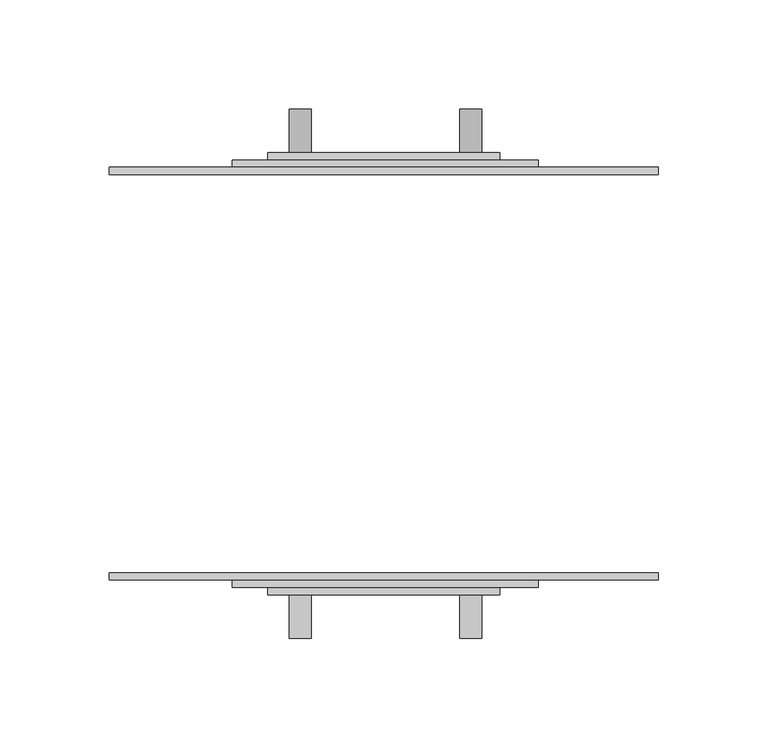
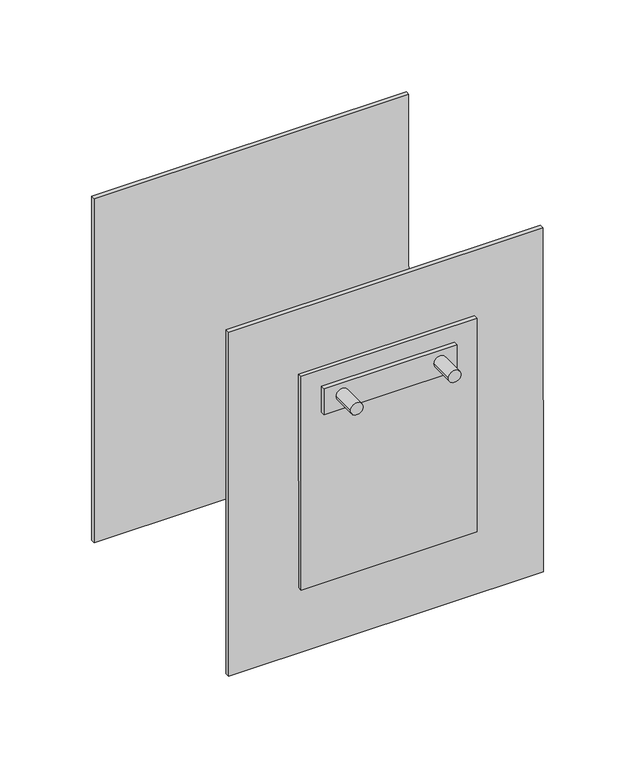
"""IFC4 building model written with IfcOpenShell, lengths in millimetres: proxy geometry, Distribution_Socket_Single_rotated : Distribution_Socket_Single_rotated."""

from ifc_helpers import new_model, si_unit, point, frame, frame_2d, origin, place, context, project, spatial, polyline, circle_curve, trimmed, segment, composite_curve, outline, extrude, source, transform, mapped, element, save


def electrical_equipment_bb2c5f74(model_context):
    return source(origin(), model_context, "Body", "SweptSolid", [
        extrude(outline(composite_curve([segment(trimmed(circle_curve(frame_2d((65.9108106, -38.3495044)), 5.0), [point((65.9071337, -43.349503))], [point((65.9144874, -33.3495057))], False, "CARTESIAN"), True, "CONTINUOUS"), segment(trimmed(circle_curve(frame_2d((65.9108106, -38.3495044)), 5.0), [point((65.9144874, -33.3495057))], [point((65.9071337, -43.349503))], False, "CARTESIAN"), True, "CONTINUOUS")], self_intersect=False)), frame((0.0, 100.0, 0.0), z_axis=(0.0, 1.0, 0.0), x_axis=(0.0, 0.0, 1.0)), (0.0, 0.0, 1.0), 20.9),
        extrude(outline(composite_curve([segment(trimmed(circle_curve(frame_2d((65.9681666, 39.6461612)), 5.0), [point((65.9644897, 34.6461626))], [point((65.9718434, 44.6461599))], False, "CARTESIAN"), True, "CONTINUOUS"), segment(trimmed(circle_curve(frame_2d((65.9681666, 39.6461612)), 5.0), [point((65.9718434, 44.6461599))], [point((65.9644897, 34.6461626))], False, "CARTESIAN"), True, "CONTINUOUS")], self_intersect=False)), frame((0.0, 100.0, 0.0), z_axis=(0.0, 1.0, 0.0), x_axis=(0.0, 0.0, 1.0)), (0.0, 0.0, 1.0), 20.9),
        extrude(outline(composite_curve([segment(trimmed(circle_curve(frame_2d((65.9108106, -38.3495044)), 5.0), [point((65.9071337, -43.349503))], [point((65.9144874, -33.3495057))], False, "CARTESIAN"), True, "CONTINUOUS"), segment(trimmed(circle_curve(frame_2d((65.9108106, -38.3495044)), 5.0), [point((65.9144874, -33.3495057))], [point((65.9071337, -43.349503))], False, "CARTESIAN"), True, "CONTINUOUS")], self_intersect=False)), frame((0.0, -120.9, 0.0), z_axis=(0.0, 1.0, 0.0), x_axis=(0.0, 0.0, 1.0)), (0.0, 0.0, 1.0), 20.9),
        extrude(outline(composite_curve([segment(trimmed(circle_curve(frame_2d((65.9681666, 39.6461612)), 5.0), [point((65.9644897, 34.6461626))], [point((65.9718434, 44.6461599))], False, "CARTESIAN"), True, "CONTINUOUS"), segment(trimmed(circle_curve(frame_2d((65.9681666, 39.6461612)), 5.0), [point((65.9718434, 44.6461599))], [point((65.9644897, 34.6461626))], False, "CARTESIAN"), True, "CONTINUOUS")], self_intersect=False)), frame((0.0, -120.9, 0.0), z_axis=(0.0, 1.0, 0.0), x_axis=(0.0, 0.0, 1.0)), (0.0, 0.0, 1.0), 20.9),
        extrude(outline(polyline([(106.0000706, 0.0), (106.0000706, -3.3705022), (0.0, -3.3705022), (0.0, 0.0), (106.0000706, 0.0)])), frame((-53.0397311, 101.1115, 53.9610106), z_axis=(-0.0007353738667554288, 0.0, 0.9999997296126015), x_axis=(0.9999997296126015, 0.0, 0.0007353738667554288)), (0.0, 0.0, 1.0), 22.0),
        extrude(outline(polyline([(106.0000706, -202.223), (0.0, -202.223), (0.0, -198.8524978), (106.0000706, -198.8524978), (106.0000706, -202.223)])), frame((-53.0397311, 101.1115, 53.9610106), z_axis=(-0.0007353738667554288, 0.0, 0.9999997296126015), x_axis=(0.9999997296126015, 0.0, 0.0007353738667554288)), (0.0, 0.0, 1.0), 22.0),
        extrude(outline(polyline([(3.3704978, 0.0), (3.3704978, -140.0000302), (0.0, -140.0000302), (0.0, 0.0), (3.3704978, 0.0)])), frame((-69.3139377, 94.3705, -90.050996), z_axis=(-0.0007353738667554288, 0.0, 0.9999997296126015), x_axis=(0.0, 1.0, 0.0)), (0.0, 0.0, 1.0), 180.0),
        extrude(outline(polyline([(-192.1114978, 0.0), (-188.7410004, 0.0), (-188.7410004, -140.0000302), (-192.1114978, -140.0000302), (-192.1114978, 0.0)])), frame((-69.3139377, 94.3705, -90.050996), z_axis=(-0.0007353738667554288, 0.0, 0.9999997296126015), x_axis=(0.0, 1.0, 0.0)), (0.0, 0.0, 1.0), 180.0),
        extrude(outline(polyline([(250.7451946, 0.0), (250.7451946, -3.3705), (0.0, -3.3705), (0.0, 0.0), (250.7451946, 0.0)])), frame((-125.2659342, 94.3705, -145.0921565), z_axis=(-0.0007353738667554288, 0.0, 0.9999997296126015), x_axis=(0.9999997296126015, 0.0, 0.0007353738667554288)), (0.0, 0.0, 1.0), 290.0),
        extrude(outline(polyline([(0.0, -188.7410004), (0.0, -185.3705), (250.7451946, -185.3705), (250.7451946, -188.7410004), (0.0, -188.7410004)])), frame((-125.2659342, 94.3705, -145.0921565), z_axis=(-0.0007353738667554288, 0.0, 0.9999997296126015), x_axis=(0.9999997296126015, 0.0, 0.0007353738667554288)), (0.0, 0.0, 1.0), 290.0),
    ])


if __name__ == "__main__":
    model = new_model("IFC4")
    model_context = context("Model", 3, world=origin())
    ifc_project = project(units=[si_unit("LENGTHUNIT", "METRE", prefix="MILLI")], contexts=[model_context])
    site = spatial("IfcSite", under=ifc_project)
    building = spatial("IfcBuilding", under=site)
    placement = place(None, origin())
    electrical_equipment_shape = electrical_equipment_bb2c5f74(model_context)
    element("IfcBuildingElementProxy", 1, Name="Distribution_Socket_Single_rotated : Distribution_Socket_Single_rotated", ObjectType="Distribution_Socket_Single_rotated : Distribution_Socket_Single_rotated", at=placement, inside=building, context=model_context, shape_type="MappedRepresentation", body=[
        mapped(electrical_equipment_shape, transform((0.0, 0.0, 0.0), x_axis=(1.0, 0.0, 0.0), y_axis=(0.0, 1.0, 0.0), z_axis=(0.0, 0.0, 1.0))),
    ])
    save(model, "model.ifc")
